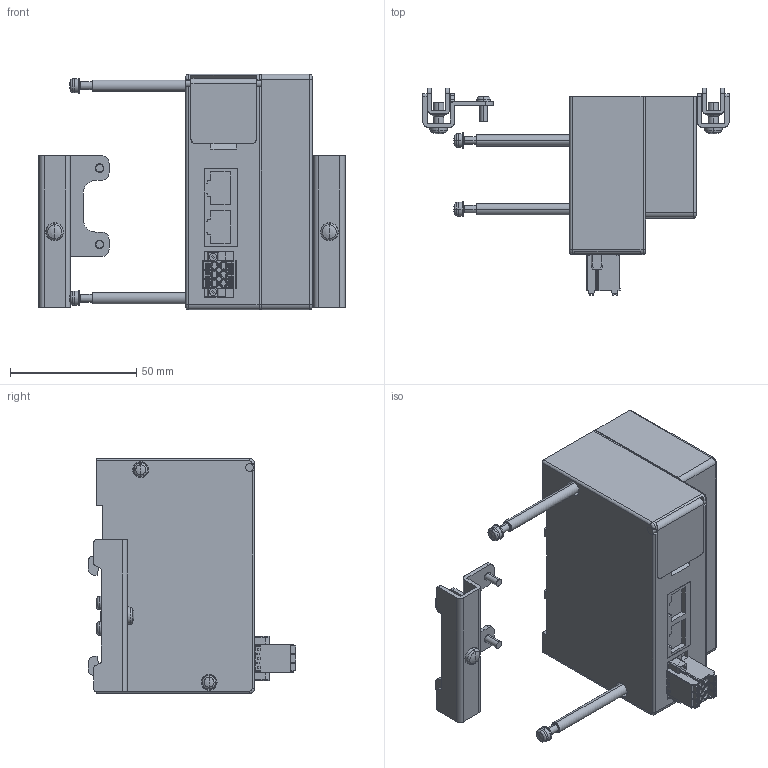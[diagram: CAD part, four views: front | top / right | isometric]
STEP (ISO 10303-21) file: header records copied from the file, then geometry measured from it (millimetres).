
FILE_DESCRIPTION( (''), '2;1');
FILE_NAME ('YS8EK3-2-DN.stp','2022-12-01T14:36:46',(''),(''),'spGate 12.6.6','','');
FILE_SCHEMA (('AUTOMOTIVE_DESIGN'));
Length unit declared in the file: millimetre
Products named in the file (3): Assembly; YS8EK3-2-DN-prt0; YS8EK3-2-DN-prt1
Assembly tree (3 placements, depth 2):
  Assembly
    YS8EK3-2-DN-prt0
    YS8EK3-2-DN-prt1  x2
Bounding box: 121 x 82.1 x 93 mm (x, y, z)
Volume: 264959.9 mm3; surface area: 46294.5 mm2
Topology: 3 solids, 3 shells, 971 faces, 2541 edges, 1629 vertices
Faces by surface type: plane 563, cylinder 310, bspline 82, sphere 16
Entity records: 43962 total; most frequent: CARTESIAN_POINT 6025, ORIENTED_EDGE 4360, DIRECTION 4124, COLOUR_RGB 3022, PRESENTATION_STYLE_ASSIGNMENT 3022, STYLED_ITEM 3022, EDGE_CURVE 2180, DRAUGHTING_PRE_DEFINED_CURVE_FONT 2180
